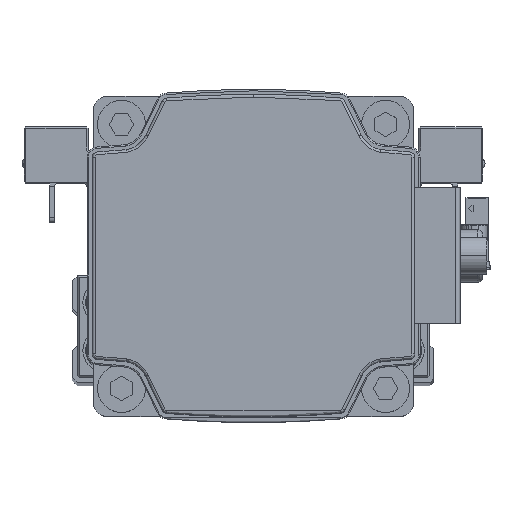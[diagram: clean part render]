
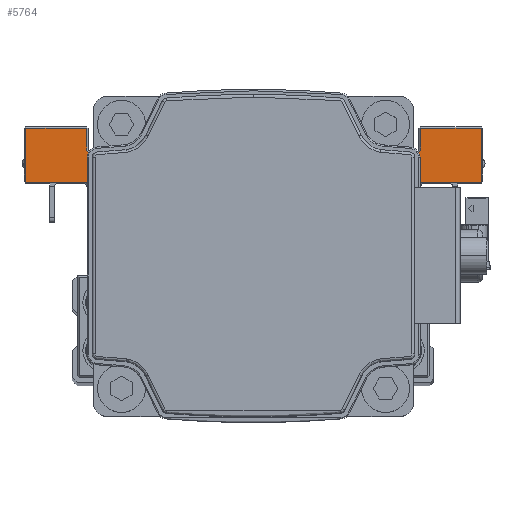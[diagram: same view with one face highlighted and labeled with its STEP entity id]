
A CAD part, top view. The second image highlights one B-rep face of the part: STEP entity #5764.
In plain terms, the highlighted planar face has unit normal (0, 0, 1) as drawn and (1, 0, 0) by its records, which use the part's own axes.
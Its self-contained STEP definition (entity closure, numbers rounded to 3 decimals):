
#474 = ORIENTED_EDGE ( 'NONE', *, *, #20758, .T. ) ;
#701 = DIRECTION ( 'NONE',  ( 0., 0., 1. ) ) ;
#955 = LINE ( 'NONE', #13006, #19174 ) ;
#1156 = CARTESIAN_POINT ( 'NONE',  ( 25.5, 7.5, -42.7 ) ) ;
#1529 = ORIENTED_EDGE ( 'NONE', *, *, #8927, .T. ) ;
#1674 = VERTEX_POINT ( 'NONE', #16222 ) ;
#1752 = CIRCLE ( 'NONE', #23837, 2. ) ;
#1822 = VERTEX_POINT ( 'NONE', #38170 ) ;
#2146 = LINE ( 'NONE', #14202, #20564 ) ;
#2547 = VECTOR ( 'NONE', #13206, 1000. ) ;
#2612 = ORIENTED_EDGE ( 'NONE', *, *, #19035, .T. ) ;
#2630 = EDGE_CURVE ( 'NONE', #32080, #12537, #8171, .T. ) ;
#2809 = CARTESIAN_POINT ( 'NONE',  ( 25.5, 12.7, 30. ) ) ;
#2812 = CIRCLE ( 'NONE', #24880, 1.3 ) ;
#3224 = DIRECTION ( 'NONE',  ( 0., 0., -1. ) ) ;
#3428 = CARTESIAN_POINT ( 'NONE',  ( 25.5, 17.7, -15. ) ) ;
#3838 = CARTESIAN_POINT ( 'NONE',  ( 25.5, 5.5, -15. ) ) ;
#3978 = AXIS2_PLACEMENT_3D ( 'NONE', #9949, #21996, #34073 ) ;
#4176 = ORIENTED_EDGE ( 'NONE', *, *, #36481, .T. ) ;
#5764 = ADVANCED_FACE ( 'NONE', ( #23177 ), #35278, .F. ) ;
#6146 = EDGE_CURVE ( 'NONE', #23489, #34120, #2146, .T. ) ;
#6503 = DIRECTION ( 'NONE',  ( -1., 0., 0. ) ) ;
#6655 = AXIS2_PLACEMENT_3D ( 'NONE', #8175, #20201, #32288 ) ;
#7913 = DIRECTION ( 'NONE',  ( 0., 0., -1. ) ) ;
#7983 = EDGE_CURVE ( 'NONE', #1674, #23489, #1752, .T. ) ;
#8171 = LINE ( 'NONE', #20198, #17684 ) ;
#8175 = CARTESIAN_POINT ( 'NONE',  ( 25.5, 7.5, -15. ) ) ;
#8259 = CARTESIAN_POINT ( 'NONE',  ( 25.5, -7.5, 15. ) ) ;
#8282 = ORIENTED_EDGE ( 'NONE', *, *, #7983, .T. ) ;
#8760 = VERTEX_POINT ( 'NONE', #2809 ) ;
#8817 = CARTESIAN_POINT ( 'NONE',  ( 25.5, 12.7, -30. ) ) ;
#8871 = DIRECTION ( 'NONE',  ( -1., 0., 0. ) ) ;
#8927 = EDGE_CURVE ( 'NONE', #1822, #15614, #11508, .T. ) ;
#9057 = LINE ( 'NONE', #21112, #9412 ) ;
#9412 = VECTOR ( 'NONE', #33197, 1000. ) ;
#9473 = CARTESIAN_POINT ( 'NONE',  ( 25.5, 5.5, 15. ) ) ;
#9949 = CARTESIAN_POINT ( 'NONE',  ( 25.5, 14., -30. ) ) ;
#10020 = CARTESIAN_POINT ( 'NONE',  ( 25.5, 5.5, -17. ) ) ;
#10160 = ORIENTED_EDGE ( 'NONE', *, *, #26226, .T. ) ;
#10330 = VERTEX_POINT ( 'NONE', #38804 ) ;
#10396 = LINE ( 'NONE', #22442, #16195 ) ;
#11508 = LINE ( 'NONE', #23548, #20699 ) ;
#11777 = CARTESIAN_POINT ( 'NONE',  ( 25.5, 14., -31.3 ) ) ;
#12537 = VERTEX_POINT ( 'NONE', #27425 ) ;
#12822 = ORIENTED_EDGE ( 'NONE', *, *, #21105, .F. ) ;
#12916 = VERTEX_POINT ( 'NONE', #8817 ) ;
#12979 = CIRCLE ( 'NONE', #35092, 2. ) ;
#13006 = CARTESIAN_POINT ( 'NONE',  ( 25.5, 17.7, -15. ) ) ;
#13155 = CARTESIAN_POINT ( 'NONE',  ( 25.5, 17.7, 42.7 ) ) ;
#13206 = DIRECTION ( 'NONE',  ( 0., 1., 0. ) ) ;
#13334 = LINE ( 'NONE', #25387, #32011 ) ;
#14202 = CARTESIAN_POINT ( 'NONE',  ( 25.5, 7.5, 15. ) ) ;
#15467 = DIRECTION ( 'NONE',  ( 0., 0., 1. ) ) ;
#15614 = VERTEX_POINT ( 'NONE', #11777 ) ;
#15713 = LINE ( 'NONE', #27776, #24572 ) ;
#16195 = VECTOR ( 'NONE', #34525, 1000. ) ;
#16222 = CARTESIAN_POINT ( 'NONE',  ( 25.5, 7.5, 17. ) ) ;
#16402 = EDGE_CURVE ( 'NONE', #37076, #10330, #9057, .T. ) ;
#17684 = VECTOR ( 'NONE', #32282, 1000. ) ;
#18149 = CARTESIAN_POINT ( 'NONE',  ( 25.5, 14., 31.3 ) ) ;
#18164 = EDGE_CURVE ( 'NONE', #12916, #8760, #15713, .T. ) ;
#18219 = LINE ( 'NONE', #30301, #37629 ) ;
#18542 = DIRECTION ( 'NONE',  ( 0., 0., 1. ) ) ;
#18835 = ORIENTED_EDGE ( 'NONE', *, *, #24663, .T. ) ;
#19035 = EDGE_CURVE ( 'NONE', #38100, #28310, #28220, .T. ) ;
#19174 = VECTOR ( 'NONE', #25056, 1000. ) ;
#19856 = VERTEX_POINT ( 'NONE', #3838 ) ;
#19946 = ORIENTED_EDGE ( 'NONE', *, *, #18164, .T. ) ;
#20198 = CARTESIAN_POINT ( 'NONE',  ( 25.5, 7.5, 31.3 ) ) ;
#20201 = DIRECTION ( 'NONE',  ( -1., 0., 0. ) ) ;
#20564 = VECTOR ( 'NONE', #26244, 1000. ) ;
#20699 = VECTOR ( 'NONE', #35644, 1000. ) ;
#20758 = EDGE_CURVE ( 'NONE', #25449, #38100, #10396, .T. ) ;
#20918 = VECTOR ( 'NONE', #15467, 1000. ) ;
#20923 = DIRECTION ( 'NONE',  ( 0., 0., 1. ) ) ;
#21006 = CIRCLE ( 'NONE', #3978, 1.3 ) ;
#21105 = EDGE_CURVE ( 'NONE', #19856, #24637, #13334, .T. ) ;
#21112 = CARTESIAN_POINT ( 'NONE',  ( 25.5, 7.5, 42.7 ) ) ;
#21339 = CARTESIAN_POINT ( 'NONE',  ( 25.5, 7.5, -17. ) ) ;
#21546 = ORIENTED_EDGE ( 'NONE', *, *, #35091, .T. ) ;
#21996 = DIRECTION ( 'NONE',  ( -1., 0., 0. ) ) ;
#22063 = DIRECTION ( 'NONE',  ( -1., 0., 0. ) ) ;
#22442 = CARTESIAN_POINT ( 'NONE',  ( 25.5, 7.5, 43. ) ) ;
#22922 = LINE ( 'NONE', #35011, #23083 ) ;
#23083 = VECTOR ( 'NONE', #7913, 1000. ) ;
#23177 = FACE_OUTER_BOUND ( 'NONE', #34551, .T. ) ;
#23489 = VERTEX_POINT ( 'NONE', #9473 ) ;
#23548 = CARTESIAN_POINT ( 'NONE',  ( 25.5, 7.5, -31.3 ) ) ;
#23758 = ORIENTED_EDGE ( 'NONE', *, *, #26485, .T. ) ;
#23837 = AXIS2_PLACEMENT_3D ( 'NONE', #35978, #8871, #20923 ) ;
#24572 = VECTOR ( 'NONE', #701, 1000. ) ;
#24637 = VERTEX_POINT ( 'NONE', #36582 ) ;
#24663 = EDGE_CURVE ( 'NONE', #8760, #32080, #2812, .T. ) ;
#24868 = ORIENTED_EDGE ( 'NONE', *, *, #37847, .T. ) ;
#24880 = AXIS2_PLACEMENT_3D ( 'NONE', #33609, #6503, #18542 ) ;
#25056 = DIRECTION ( 'NONE',  ( 0., 0., 1. ) ) ;
#25387 = CARTESIAN_POINT ( 'NONE',  ( 25.5, 7.5, -15. ) ) ;
#25449 = VERTEX_POINT ( 'NONE', #21339 ) ;
#26021 = EDGE_CURVE ( 'NONE', #19856, #25449, #12979, .T. ) ;
#26226 = EDGE_CURVE ( 'NONE', #34120, #24637, #18219, .T. ) ;
#26244 = DIRECTION ( 'NONE',  ( 0., -1., 0. ) ) ;
#26485 = EDGE_CURVE ( 'NONE', #10330, #1674, #22922, .T. ) ;
#26493 = ORIENTED_EDGE ( 'NONE', *, *, #16402, .T. ) ;
#26855 = ORIENTED_EDGE ( 'NONE', *, *, #6146, .T. ) ;
#27425 = CARTESIAN_POINT ( 'NONE',  ( 25.5, 17.7, 31.3 ) ) ;
#27776 = CARTESIAN_POINT ( 'NONE',  ( 25.5, 12.7, 30. ) ) ;
#28220 = LINE ( 'NONE', #1156, #2547 ) ;
#28310 = VERTEX_POINT ( 'NONE', #33186 ) ;
#30301 = CARTESIAN_POINT ( 'NONE',  ( 25.5, -7.5, -15. ) ) ;
#30502 = LINE ( 'NONE', #3428, #20918 ) ;
#31237 = ORIENTED_EDGE ( 'NONE', *, *, #26021, .T. ) ;
#32011 = VECTOR ( 'NONE', #37469, 1000. ) ;
#32080 = VERTEX_POINT ( 'NONE', #18149 ) ;
#32282 = DIRECTION ( 'NONE',  ( 0., 1., 0. ) ) ;
#32288 = DIRECTION ( 'NONE',  ( 0., 0., 1. ) ) ;
#32557 = CARTESIAN_POINT ( 'NONE',  ( 25.5, 7.5, -42.7 ) ) ;
#33186 = CARTESIAN_POINT ( 'NONE',  ( 25.5, 17.7, -42.7 ) ) ;
#33197 = DIRECTION ( 'NONE',  ( 0., -1., 0. ) ) ;
#33609 = CARTESIAN_POINT ( 'NONE',  ( 25.5, 14., 30. ) ) ;
#34073 = DIRECTION ( 'NONE',  ( 0., 0., 1. ) ) ;
#34120 = VERTEX_POINT ( 'NONE', #8259 ) ;
#34135 = DIRECTION ( 'NONE',  ( 0., 0., 1. ) ) ;
#34525 = DIRECTION ( 'NONE',  ( 0., 0., -1. ) ) ;
#34551 = EDGE_LOOP ( 'NONE', ( #474, #2612, #21546, #1529, #4176, #19946, #18835, #34638, #24868, #26493, #23758, #8282, #26855, #10160, #12822, #31237 ) ) ;
#34638 = ORIENTED_EDGE ( 'NONE', *, *, #2630, .T. ) ;
#35011 = CARTESIAN_POINT ( 'NONE',  ( 25.5, 7.5, 43. ) ) ;
#35091 = EDGE_CURVE ( 'NONE', #28310, #1822, #30502, .T. ) ;
#35092 = AXIS2_PLACEMENT_3D ( 'NONE', #10020, #22063, #34135 ) ;
#35278 = PLANE ( 'NONE',  #6655 ) ;
#35644 = DIRECTION ( 'NONE',  ( 0., -1., 0. ) ) ;
#35978 = CARTESIAN_POINT ( 'NONE',  ( 25.5, 5.5, 17. ) ) ;
#36481 = EDGE_CURVE ( 'NONE', #15614, #12916, #21006, .T. ) ;
#36582 = CARTESIAN_POINT ( 'NONE',  ( 25.5, -7.5, -15. ) ) ;
#37076 = VERTEX_POINT ( 'NONE', #13155 ) ;
#37469 = DIRECTION ( 'NONE',  ( 0., -1., 0. ) ) ;
#37629 = VECTOR ( 'NONE', #3224, 1000. ) ;
#37847 = EDGE_CURVE ( 'NONE', #12537, #37076, #955, .T. ) ;
#38100 = VERTEX_POINT ( 'NONE', #32557 ) ;
#38170 = CARTESIAN_POINT ( 'NONE',  ( 25.5, 17.7, -31.3 ) ) ;
#38804 = CARTESIAN_POINT ( 'NONE',  ( 25.5, 7.5, 42.7 ) ) ;
